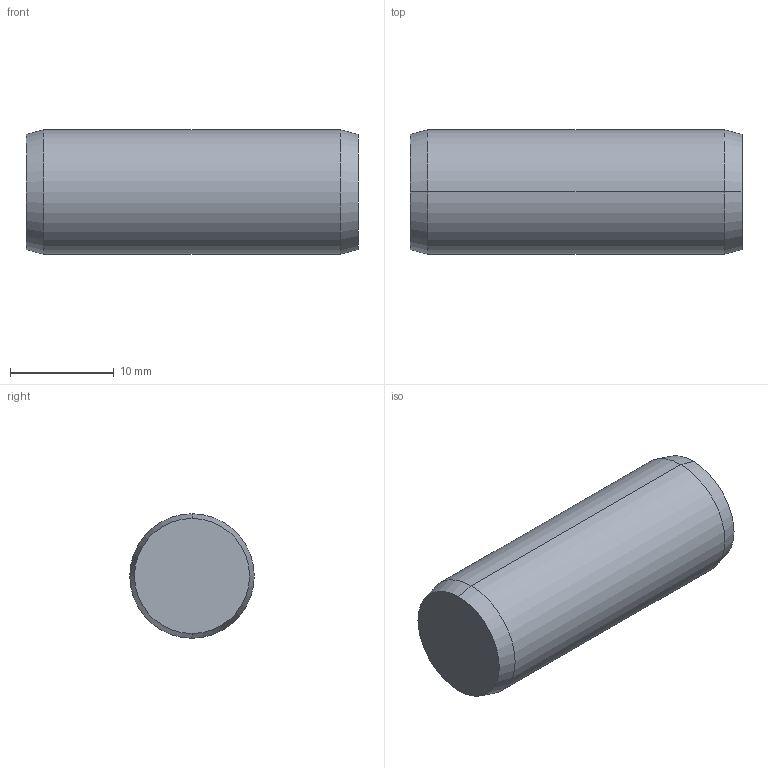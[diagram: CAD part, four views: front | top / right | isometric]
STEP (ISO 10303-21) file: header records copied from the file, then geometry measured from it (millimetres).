
FILE_DESCRIPTION (( 'STEP AP203' ), '1' );
FILE_NAME ('P1206.120-032.step', '2017-06-14T08:38:00', ( 'User' ), ( '' ), 'SwSTEP 2.0', 'SolidWorks 2009', '' );
FILE_SCHEMA (( 'CONFIG_CONTROL_DESIGN' ));
Length unit declared in the file: millimetre
Products named in the file (1): P1206.120-032
Bounding box: 32 x 12 x 12 mm (x, y, z)
Volume: 3590.7 mm3; surface area: 1399 mm2
Topology: 1 solids, 1 shells, 8 faces, 14 edges, 8 vertices
Faces by surface type: cone 4, cylinder 2, plane 2
Entity records: 271 total; most frequent: DIRECTION 40, CARTESIAN_POINT 31, ORIENTED_EDGE 28, AXIS2_PLACEMENT_3D 17, EDGE_CURVE 14, PERSON_AND_ORGANIZATION 8, CIRCLE 8, FACE_OUTER_BOUND 8
